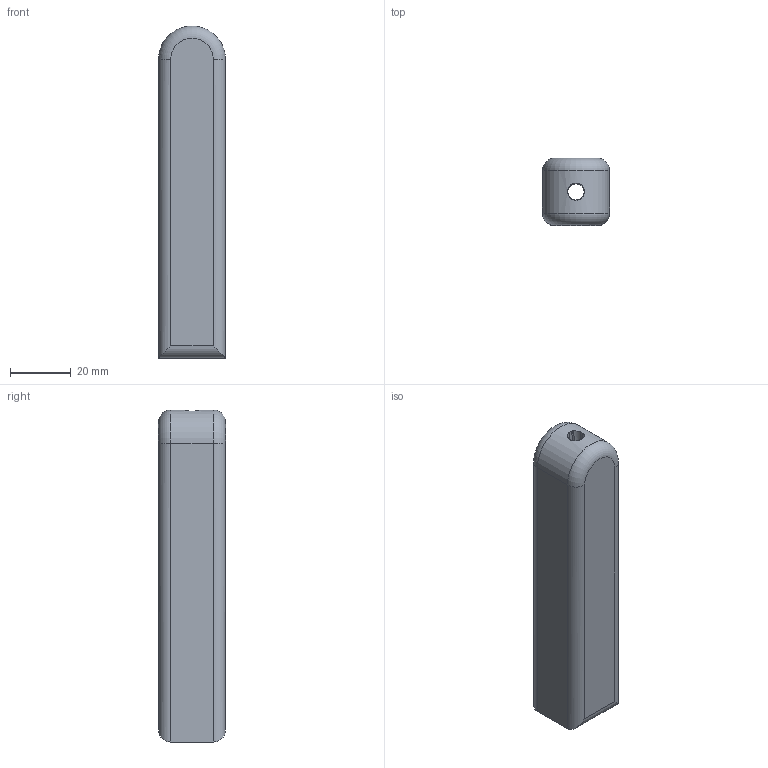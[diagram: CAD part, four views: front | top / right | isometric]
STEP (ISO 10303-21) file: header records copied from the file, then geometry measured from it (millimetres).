
FILE_DESCRIPTION((''),'2;1');
FILE_NAME('C:\Users\JamesRPatrick\Documents\Autodesk\PM422\STEP2.0\PM422Barrel2.stp','2015-08-22T19:09:09',('JamesRPatrick'),(''),'Autodesk Inventor 2012','Autodesk Inventor 2012','');
FILE_SCHEMA(('AUTOMOTIVE_DESIGN { 1 0 10303 214 1 1 1 1 }'));
Length unit declared in the file: millimetre
Products named in the file (1): PM422Barrel2
Bounding box: 22 x 22 x 109 mm (x, y, z)
Volume: 47211.2 mm3; surface area: 11264.6 mm2
Topology: 1 solids, 1 shells, 41 faces, 109 edges, 70 vertices
Faces by surface type: bspline 15, cylinder 13, plane 11, torus 2
Entity records: 2056 total; most frequent: CARTESIAN_POINT 1167, ORIENTED_EDGE 218, DIRECTION 118, EDGE_CURVE 109, VERTEX_POINT 70, B_SPLINE_CURVE_WITH_KNOTS 69, AXIS2_PLACEMENT_3D 51, EDGE_LOOP 43
